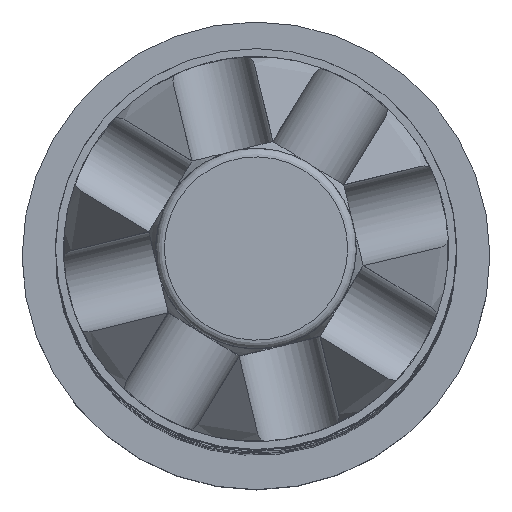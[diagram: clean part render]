
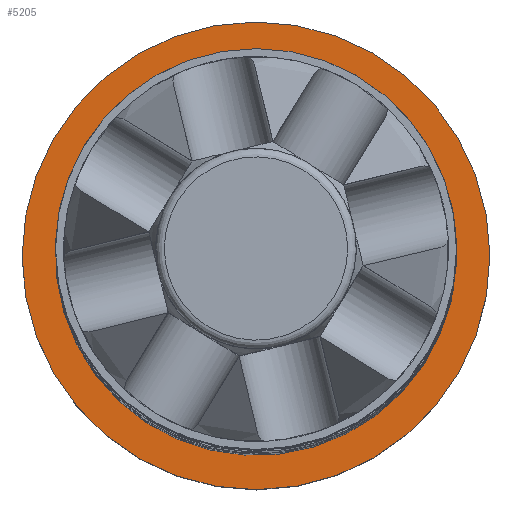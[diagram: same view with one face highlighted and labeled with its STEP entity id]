
A CAD part, top view. The second image highlights one B-rep face of the part: STEP entity #5205.
In plain terms, the highlighted planar face has unit normal (0, 0, 1).
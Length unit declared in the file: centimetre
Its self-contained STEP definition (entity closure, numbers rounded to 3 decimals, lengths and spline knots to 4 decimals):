
#311=CIRCLE('',#10902,2.2225);
#313=CIRCLE('',#10905,1.5875);
#1720=VERTEX_POINT('',#10395);
#1722=VERTEX_POINT('',#10400);
#2539=EDGE_CURVE('',#1720,#1720,#311,.T.);
#2541=EDGE_CURVE('',#1722,#1722,#313,.T.);
#4044=ORIENTED_EDGE('',*,*,#2541,.F.);
#4045=ORIENTED_EDGE('',*,*,#2539,.T.);
#4459=EDGE_LOOP('',(#4044));
#4460=EDGE_LOOP('',(#4045));
#4874=FACE_BOUND('',#4459,.T.);
#4875=FACE_BOUND('',#4460,.T.);
#5205=ADVANCED_FACE('',(#4874,#4875),#5379,.T.);
#5379=PLANE('',#10904);
#6545=DIRECTION('',(0.,0.,1.));
#6546=DIRECTION('',(1.105,1.928,0.));
#6549=DIRECTION('',(0.,0.,1.));
#6550=DIRECTION('',(0.,0.,1.));
#6551=DIRECTION('',(0.789,1.377,0.));
#10394=CARTESIAN_POINT('',(0.,0.,
1.43));
#10395=CARTESIAN_POINT('',(1.1048,1.9285,1.43));
#10398=CARTESIAN_POINT('',(0.947,1.653,1.43));
#10399=CARTESIAN_POINT('',(0.,0.,
1.43));
#10400=CARTESIAN_POINT('',(0.7891,1.3775,1.43));
#10902=AXIS2_PLACEMENT_3D('',#10394,#6545,#6546);
#10904=AXIS2_PLACEMENT_3D('',#10398,#6549,$);
#10905=AXIS2_PLACEMENT_3D('',#10399,#6550,#6551);
